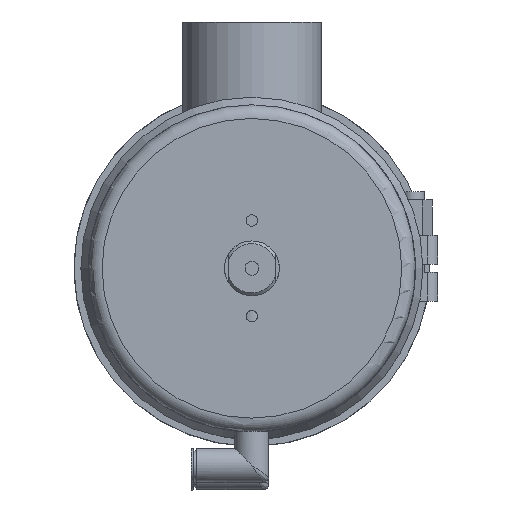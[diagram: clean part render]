
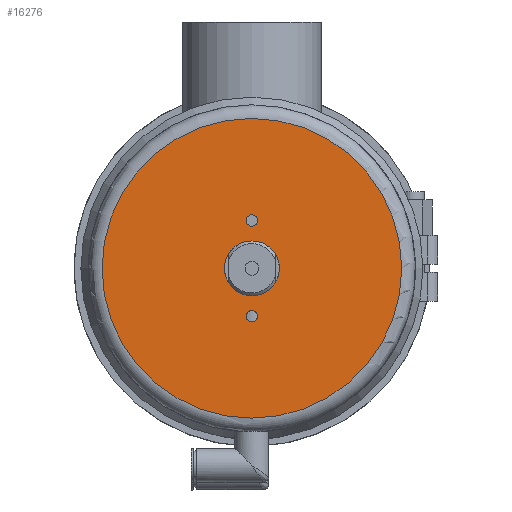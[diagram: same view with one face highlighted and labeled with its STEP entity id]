
A CAD part, front view. The second image highlights one B-rep face of the part: STEP entity #16276.
In plain terms, the highlighted planar face has unit normal (0, -1, 0) as drawn and (0, 1, 0) by its records, which use the part's own axes.
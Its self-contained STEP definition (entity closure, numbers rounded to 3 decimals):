
#985 = EDGE_LOOP ( 'NONE', ( #3088 ) ) ;
#1138 = EDGE_LOOP ( 'NONE', ( #17148 ) ) ;
#1520 = DIRECTION ( 'NONE',  ( 0., 1., 0. ) ) ;
#1939 = DIRECTION ( 'NONE',  ( 0., 0., 1. ) ) ;
#3088 = ORIENTED_EDGE ( 'NONE', *, *, #16836, .T. ) ;
#3302 = EDGE_LOOP ( 'NONE', ( #7316 ) ) ;
#4108 = AXIS2_PLACEMENT_3D ( 'NONE', #21761, #1520, #12507 ) ;
#4757 = AXIS2_PLACEMENT_3D ( 'NONE', #11143, #12594, #1939 ) ;
#5630 = DIRECTION ( 'NONE',  ( 0., -1., 0. ) ) ;
#6475 = FACE_OUTER_BOUND ( 'NONE', #985, .T. ) ;
#6574 = EDGE_CURVE ( 'NONE', #8433, #8433, #10090, .T. ) ;
#7109 = CARTESIAN_POINT ( 'NONE',  ( 0., 214., 19.6 ) ) ;
#7316 = ORIENTED_EDGE ( 'NONE', *, *, #6574, .T. ) ;
#7945 = CARTESIAN_POINT ( 'NONE',  ( 0., 214., -15.4 ) ) ;
#8257 = FACE_BOUND ( 'NONE', #1138, .T. ) ;
#8433 = VERTEX_POINT ( 'NONE', #10362 ) ;
#9196 = CIRCLE ( 'NONE', #10348, 54.75 ) ;
#9525 = EDGE_CURVE ( 'NONE', #14790, #14790, #15106, .T. ) ;
#10090 = CIRCLE ( 'NONE', #11240, 10. ) ;
#10348 = AXIS2_PLACEMENT_3D ( 'NONE', #16138, #18065, #12786 ) ;
#10362 = CARTESIAN_POINT ( 'NONE',  ( 0., 214., -10. ) ) ;
#11023 = CARTESIAN_POINT ( 'NONE',  ( 0., 214., 0. ) ) ;
#11136 = DIRECTION ( 'NONE',  ( 0., 0., -1. ) ) ;
#11143 = CARTESIAN_POINT ( 'NONE',  ( 0., 214., 17.5 ) ) ;
#11240 = AXIS2_PLACEMENT_3D ( 'NONE', #11023, #5630, #11136 ) ;
#11551 = VERTEX_POINT ( 'NONE', #7945 ) ;
#11747 = FACE_BOUND ( 'NONE', #13232, .T. ) ;
#12507 = DIRECTION ( 'NONE',  ( 0., 0., 1. ) ) ;
#12594 = DIRECTION ( 'NONE',  ( 0., 1., 0. ) ) ;
#12786 = DIRECTION ( 'NONE',  ( 0., 0., -1. ) ) ;
#13232 = EDGE_LOOP ( 'NONE', ( #21833 ) ) ;
#13774 = DIRECTION ( 'NONE',  ( 0., -1., 0. ) ) ;
#14666 = VERTEX_POINT ( 'NONE', #22736 ) ;
#14790 = VERTEX_POINT ( 'NONE', #7109 ) ;
#15106 = CIRCLE ( 'NONE', #4757, 2.1 ) ;
#15474 = DIRECTION ( 'NONE',  ( 0., 0., -1. ) ) ;
#15817 = FACE_BOUND ( 'NONE', #3302, .T. ) ;
#16138 = CARTESIAN_POINT ( 'NONE',  ( 0., 214., 0. ) ) ;
#16276 = ADVANCED_FACE ( 'NONE', ( #11747, #8257, #6475, #15817 ), #17258, .F. ) ;
#16836 = EDGE_CURVE ( 'NONE', #14666, #14666, #9196, .T. ) ;
#17148 = ORIENTED_EDGE ( 'NONE', *, *, #9525, .F. ) ;
#17258 = PLANE ( 'NONE',  #19523 ) ;
#17741 = CARTESIAN_POINT ( 'NONE',  ( -59.75, 214., 0. ) ) ;
#18065 = DIRECTION ( 'NONE',  ( 0., 1., 0. ) ) ;
#19523 = AXIS2_PLACEMENT_3D ( 'NONE', #17741, #13774, #15474 ) ;
#21761 = CARTESIAN_POINT ( 'NONE',  ( 0., 214., -17.5 ) ) ;
#21833 = ORIENTED_EDGE ( 'NONE', *, *, #22317, .F. ) ;
#22317 = EDGE_CURVE ( 'NONE', #11551, #11551, #23708, .T. ) ;
#22736 = CARTESIAN_POINT ( 'NONE',  ( 0., 214., -54.75 ) ) ;
#23708 = CIRCLE ( 'NONE', #4108, 2.1 ) ;
